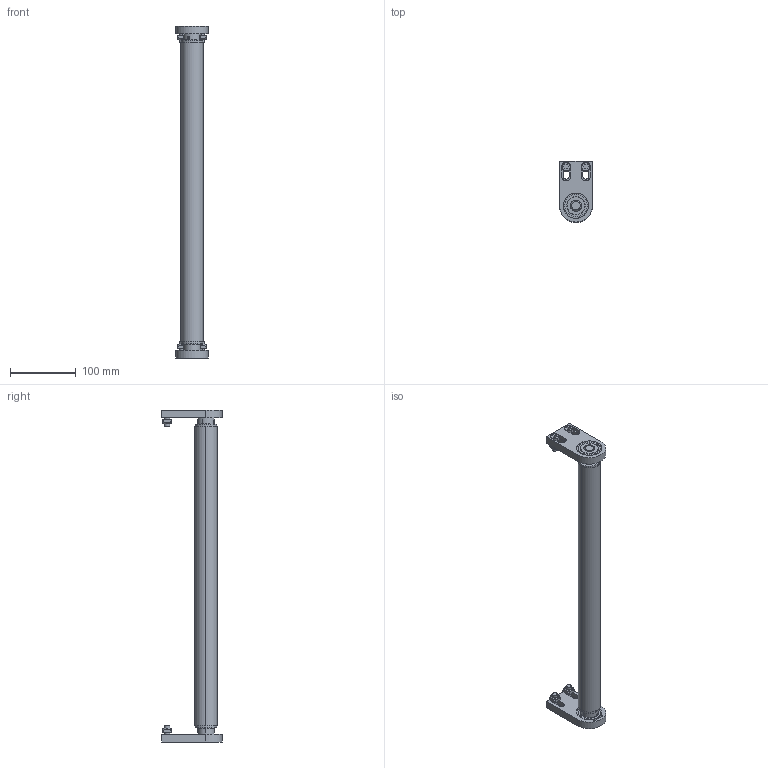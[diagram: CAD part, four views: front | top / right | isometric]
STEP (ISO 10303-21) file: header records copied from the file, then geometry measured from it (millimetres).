
FILE_DESCRIPTION (( 'STEP AP203' ), '1' );
FILE_NAME ('084.050.KSS.450.STEP', '2019-07-30T06:51:38', ( '' ), ( '' ), 'SwSTEP 2.0', 'SolidWorks 2018', '' );
FILE_SCHEMA (( 'CONFIG_CONTROL_DESIGN' ));
Length unit declared in the file: millimetre
Products named in the file (8): 084.302.000 DADI ALUSIC 13x13-1_084.302.004; 084.802.014; 084.802.028; 084.802.017_084.802.017; 084.050.KSS.450; 084.301.000 VITI ALUSIC_084.301.003; 084.802.013-2; 084.802.029-455
Assembly tree (17 placements, depth 2):
  084.050.KSS.450
    084.802.029-455
    084.301.000 VITI ALUSIC_084.301.003  x4
    084.302.000 DADI ALUSIC 13x13-1_084.302.004  x4
    084.802.017_084.802.017  x2
    084.802.028  x2
    084.802.014  x2
    084.802.013-2  x2
Bounding box: 50 x 92.5 x 505 mm (x, y, z)
Volume: 252255.3 mm3; surface area: 164310.3 mm2
Topology: 19 solids, 21 shells, 384 faces, 910 edges, 582 vertices
Faces by surface type: plane 142, cylinder 134, torus 52, cone 32, bspline 16, sphere 8
Entity records: 5980 total; most frequent: CARTESIAN_POINT 1263, DIRECTION 820, ORIENTED_EDGE 700, EDGE_CURVE 350, AXIS2_PLACEMENT_3D 339, VERTEX_POINT 224, EDGE_LOOP 182, CIRCLE 170
